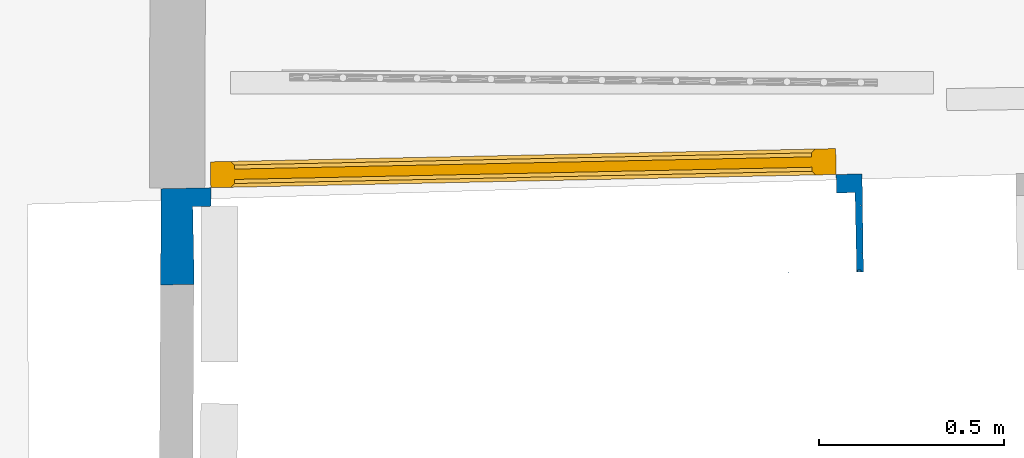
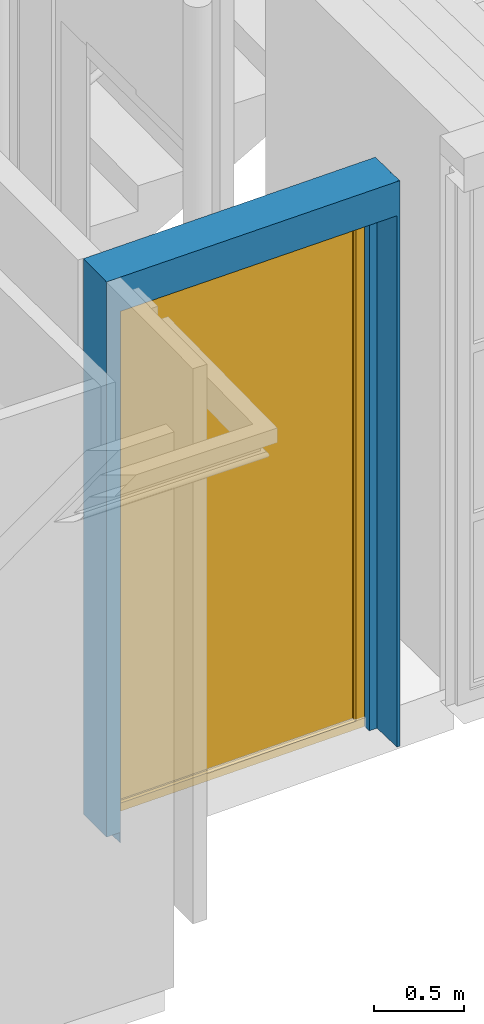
# One storey, part 38 of 66: 1 wall, 1 window, 1 opening.
"""IFC2X3 building model written with IfcOpenShell, lengths in centimetres."""

import ifcopenshell
import ifcopenshell.guid

model = None  # the IFC model being written
_history = None  # IfcOwnerHistory: only IFC2X3 demands one
_inside = {}  # id of a spatial element -> (the spatial element, [elements in it])
_under = {}  # id of a project, library or spatial element -> (it, [spatial elements below it])
_declared = {}  # id of a project -> (the project, [libraries it declares])
_typed = {}  # id of a type object -> (the type object, [elements of that type])
_made_of = {}  # id of a material, layer set ... -> (it, [elements and type objects made of it])


def new_model(schema):
    """Start an empty IFC model of exactly this schema.

    Asked for "IFC4X3", IfcOpenShell would pick the latest addendum, in which some entities
    have other attributes; the version numbers below select the first issue.
    IFC2X3 requires an IfcOwnerHistory on every rooted entity: one is made here for all.
    """
    global model, _history
    if schema == "IFC4X3":
        model = ifcopenshell.file(schema_version=(4, 3, 0, 0))
    else:
        model = ifcopenshell.file(schema=schema)
    _inside.clear()
    _under.clear()
    _declared.clear()
    _typed.clear()
    _made_of.clear()
    _history = None
    if model.schema == "IFC2X3":
        org = make("IfcOrganization", Name="unknown")
        user = make(
            "IfcPersonAndOrganization",
            ThePerson=make("IfcPerson", FamilyName="unknown"),
            TheOrganization=org,
        )
        app = make(
            "IfcApplication",
            ApplicationDeveloper=org,
            Version="unknown",
            ApplicationFullName="unknown",
            ApplicationIdentifier="unknown",
        )
        _history = make(
            "IfcOwnerHistory",
            OwningUser=user,
            OwningApplication=app,
            ChangeAction="ADDED",
            CreationDate=0,
        )
    return model


def make(cls, **values):
    """One entity of the class cls with the attributes given. An attribute that is None is left unset."""
    return model.create_entity(
        cls, **{name: value for name, value in values.items() if value is not None}
    )


def entity(cls, *values):
    """Any entity or typed value of the class cls, its attributes in the order of the schema. None: left unset."""
    e = model.create_entity(cls)
    for i, value in enumerate(values):
        if value is not None:
            e[i] = value
    return e


def rooted(cls, **values):
    """An entity with a GlobalId (a new one), such as an element, a storey or a relation."""
    return make(cls, GlobalId=ifcopenshell.guid.new(), OwnerHistory=_history, **values)


def si_unit(unit_type, name, prefix=None):
    """IfcSIUnit, for example si_unit("LENGTHUNIT", "METRE", prefix="MILLI")."""
    return make("IfcSIUnit", UnitType=unit_type, Prefix=prefix, Name=name)


def converted_unit(unit_type, name, factor, base, dimensions=None, offset=None):
    """IfcConversionBasedUnit, such as the inch: factor (a typed value) times the base unit."""
    return make(
        "IfcConversionBasedUnit"
        if offset is None
        else "IfcConversionBasedUnitWithOffset",
        ConversionOffset=offset,
        Dimensions=None
        if dimensions is None
        else entity("IfcDimensionalExponents", *dimensions),
        UnitType=unit_type,
        Name=name,
        ConversionFactor=make(
            "IfcMeasureWithUnit", ValueComponent=factor, UnitComponent=base
        ),
    )


def assignment(units):
    """IfcUnitAssignment: the units of a project."""
    return None if units is None else make("IfcUnitAssignment", Units=units)


def point(xyz):
    """IfcCartesianPoint."""
    return None if xyz is None else make("IfcCartesianPoint", Coordinates=xyz)


def direction(xyz):
    """IfcDirection."""
    return None if xyz is None else make("IfcDirection", DirectionRatios=xyz)


def frame(location, z_axis=None, x_axis=None):
    """IfcAxis2Placement3D, a coordinate frame: its origin and axes. An axis left out is left unset."""
    return make(
        "IfcAxis2Placement3D",
        Location=point(location),
        Axis=direction(z_axis),
        RefDirection=direction(x_axis),
    )


def origin():
    """The frame at (0, 0, 0) with its axes left unset."""
    return frame((0.0, 0.0, 0.0))


def origin_with_axes():
    """The frame at (0, 0, 0) with the z axis (0, 0, 1) and the x axis (1, 0, 0) written out."""
    return frame((0.0, 0.0, 0.0), z_axis=(0.0, 0.0, 1.0), x_axis=(1.0, 0.0, 0.0))


def place(relative_to, where):
    """IfcLocalPlacement: puts the frame where relative to a parent placement (None: the world)."""
    return make(
        "IfcLocalPlacement", PlacementRelTo=relative_to, RelativePlacement=where
    )


def context(
    kind, dimensions, precision=None, world=None, true_north=None, identifier=None
):
    """IfcGeometricRepresentationContext, for example the 3D "Model" context."""
    return make(
        "IfcGeometricRepresentationContext",
        ContextIdentifier=identifier,
        ContextType=kind,
        CoordinateSpaceDimension=dimensions,
        Precision=precision,
        WorldCoordinateSystem=world,
        TrueNorth=true_north,
    )


def subcontext(parent, identifier, kind, view, scale=None):
    """IfcGeometricRepresentationSubContext, for example "Body" below "Model"."""
    return make(
        "IfcGeometricRepresentationSubContext",
        ContextIdentifier=identifier,
        ContextType=kind,
        ParentContext=parent,
        TargetScale=scale,
        TargetView=view,
    )


def project(units=None, contexts=None):
    """IfcProject with its units and contexts."""
    return rooted(
        "IfcProject",
        Name="project",
        RepresentationContexts=contexts,
        UnitsInContext=assignment(units),
    )


def spatial(cls, under=None, at=None, **own):
    """A site, building, storey or space (cls), placed at a placement, below another one or the project."""
    s = rooted(cls, ObjectPlacement=at, **own)
    if under is not None:
        _under.setdefault(under.id(), (under, []))[1].append(s)
    return s


def faces_of(points, faces, orient=None, outer=None):
    """IfcFace entities. A face is a list of loops; a loop is a list of indices into points, from 0.

    orient and outer hold one flag for each loop. By default every Orientation is true, the
    first loop of a face is its IfcFaceOuterBound and the others are IfcFaceBound.
    """
    made = []
    for i, loops in enumerate(faces):
        bounds = []
        for j, loop in enumerate(loops):
            is_outer = j == 0 if outer is None else outer[i][j]
            bounds.append(
                make(
                    "IfcFaceOuterBound" if is_outer else "IfcFaceBound",
                    Bound=make("IfcPolyLoop", Polygon=[points[k] for k in loop]),
                    Orientation=True if orient is None else orient[i][j],
                )
            )
        made.append(make("IfcFace", Bounds=bounds))
    return made


def faceted_brep(points, faces, orient=None, outer=None, voids=None):
    """IfcFacetedBrep: a solid bounded by flat faces; with voids (closed shells), ...WithVoids."""
    shared = [point(p) for p in points]
    hull = make("IfcClosedShell", CfsFaces=faces_of(shared, faces, orient, outer))
    if voids is None:
        return make("IfcFacetedBrep", Outer=hull)
    return make(
        "IfcFacetedBrepWithVoids",
        Outer=hull,
        Voids=[
            make(cls, CfsFaces=faces_of(shared, fs, o, b)) for cls, fs, o, b in voids
        ],
    )


def shape(context_of_items, identifier, shape_type, items):
    """IfcShapeRepresentation: the items that make up one representation, for example the "Body"."""
    return make(
        "IfcShapeRepresentation",
        ContextOfItems=context_of_items,
        RepresentationIdentifier=identifier,
        RepresentationType=shape_type,
        Items=items,
    )


def source(mapping_origin, context_of_items, identifier, shape_type, items):
    """IfcRepresentationMap: a shape defined once, which mapped items show again and again."""
    return make(
        "IfcRepresentationMap",
        MappingOrigin=mapping_origin,
        MappedRepresentation=shape(context_of_items, identifier, shape_type, items),
    )


def transform(
    local_origin,
    x_axis=None,
    y_axis=None,
    z_axis=None,
    scale=None,
    scale2=None,
    scale3=None,
    uniform=True,
):
    """IfcCartesianTransformationOperator3D, or its non-uniform kind. x_axis, y_axis, z_axis: its Axis1, 2, 3."""
    if uniform:
        return make(
            "IfcCartesianTransformationOperator3D",
            Axis1=direction(x_axis),
            Axis2=direction(y_axis),
            LocalOrigin=point(local_origin),
            Scale=scale,
            Axis3=direction(z_axis),
        )
    return make(
        "IfcCartesianTransformationOperator3DnonUniform",
        Axis1=direction(x_axis),
        Axis2=direction(y_axis),
        LocalOrigin=point(local_origin),
        Scale=scale,
        Axis3=direction(z_axis),
        Scale2=scale2,
        Scale3=scale3,
    )


def mapped(mapping_source, mapping_target):
    """IfcMappedItem: shows the shape of a source again, moved by a transform."""
    return make(
        "IfcMappedItem", MappingSource=mapping_source, MappingTarget=mapping_target
    )


def material(Name=None, Category=None):
    """IfcMaterial."""
    return make("IfcMaterial", Name=Name, Category=Category)


def material_list(materials):
    """IfcMaterialList."""
    return make("IfcMaterialList", Materials=materials)


def layer(
    of_material, thickness, ventilated=None, Name=None, Category=None, Priority=None
):
    """IfcMaterialLayer: one layer of a wall or slab, of a material (None: an air gap)."""
    return make(
        "IfcMaterialLayer",
        Material=of_material,
        LayerThickness=thickness,
        IsVentilated=ventilated,
        Name=Name,
        Category=Category,
        Priority=Priority,
    )


def layer_set(layers, Name=None):
    """IfcMaterialLayerSet."""
    return make("IfcMaterialLayerSet", MaterialLayers=layers, LayerSetName=Name)


def layer_usage(for_layer_set, set_direction, sense, offset, extent=None):
    """IfcMaterialLayerSetUsage: how a layer set lies in its element."""
    return make(
        "IfcMaterialLayerSetUsage",
        ForLayerSet=for_layer_set,
        LayerSetDirection=set_direction,
        DirectionSense=sense,
        OffsetFromReferenceLine=offset,
        ReferenceExtent=extent,
    )


def made_of(thing, what):
    """Note that an element or type object is made of a material, layer set ...; save() writes the relation."""
    if what is not None:
        _made_of.setdefault(what.id(), (what, []))[1].append(thing)
    return thing


def type_object(cls, material=None, **own):
    """A type object (cls), such as IfcWallType, which elements share."""
    return made_of(rooted(cls, **own), material)


def element(
    cls,
    number,
    at=None,
    inside=None,
    cuts=None,
    type_object=None,
    material=None,
    context=None,
    identifier="Body",
    shape_type=None,
    held_by="IfcProductDefinitionShape",
    body=None,
    shapes=None,
    **own,
):
    """One element of the class cls, such as IfcWall. Its Tag is "e" and its number.

    at: its placement. inside: the storey or other place that contains it. cuts: it is an
    opening in that element (IfcRelVoidsElement). A single representation is given by context,
    identifier, shape_type and body (its items); several are given by shapes. held_by: the class
    of the entity that holds the representations. save() writes the other relations.
    """
    e = rooted(cls, Tag="e%d" % number, ObjectPlacement=at, **own)
    if body is not None:
        shapes = [shape(context, identifier, shape_type, body)]
    if shapes is not None:
        e.Representation = make(held_by, Representations=shapes)
    if inside is not None:
        _inside.setdefault(inside.id(), (inside, []))[1].append(e)
    if cuts is not None:
        rooted(
            "IfcRelVoidsElement", RelatingBuildingElement=cuts, RelatedOpeningElement=e
        )
    if type_object is not None:
        _typed.setdefault(type_object.id(), (type_object, []))[1].append(e)
    return made_of(e, material)


def fill(opening, filler):
    """IfcRelFillsElement: the door or window that sits in an opening."""
    return rooted(
        "IfcRelFillsElement",
        RelatingOpeningElement=opening,
        RelatedBuildingElement=filler,
    )


def aggregate(whole, parts):
    """IfcRelAggregates: a whole, such as a stair, and the parts it consists of."""
    return rooted("IfcRelAggregates", RelatingObject=whole, RelatedObjects=parts)


def save(model, path):
    """Write the relations noted so far, then the file.

    IfcRelAggregates (storeys below a building ...), IfcRelContainedInSpatialStructure (elements
    in a storey), IfcRelDefinesByType, IfcRelAssociatesMaterial and IfcRelDeclares: one each for
    every whole, place, type object, material and project.
    """
    for whole, parts in _under.values():
        aggregate(whole, parts)
    for where, things in _inside.values():
        rooted(
            "IfcRelContainedInSpatialStructure",
            RelatedElements=things,
            RelatingStructure=where,
        )
    for kind, things in _typed.values():
        rooted("IfcRelDefinesByType", RelatedObjects=things, RelatingType=kind)
    for what, things in _made_of.values():
        rooted("IfcRelAssociatesMaterial", RelatedObjects=things, RelatingMaterial=what)
    for by, libraries in _declared.values():
        rooted("IfcRelDeclares", RelatingContext=by, RelatedDefinitions=libraries)
    model.write(path)


model = new_model("IFC2X3")

# Units and contexts
model_context = context("Model", 3, precision=0.0001, world=origin(), true_north=direction((0.225632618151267, 0.974212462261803, 0.0)))
body_context = subcontext(model_context, "Body", "Model", "MODEL_VIEW")
footprint_context = subcontext(model_context, "FootPrint", "Model", "MODEL_VIEW")
profile_context = subcontext(model_context, "Profile", "Model", "MODEL_VIEW")
ifc_project = project(units=[si_unit("LENGTHUNIT", "METRE", prefix="CENTI"), si_unit("AREAUNIT", "SQUARE_METRE", prefix="CENTI"), si_unit("VOLUMEUNIT", "CUBIC_METRE", prefix="CENTI"), converted_unit("PLANEANGLEUNIT", "DEGREE", entity("IfcRatioMeasure", 0.0174532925), si_unit("PLANEANGLEUNIT", "RADIAN"), dimensions=[0, 0, 0, 0, 0, 0, 0])], contexts=[model_context])

# Site, building, storey
site_placement = place(None, origin_with_axes())
site = spatial("IfcSite", under=ifc_project, at=site_placement, Name="Default Site", CompositionType="ELEMENT")
building_placement = place(site_placement, origin_with_axes())
building = spatial("IfcBuilding", under=site, at=building_placement, Name="Default Building", CompositionType="ELEMENT")
storey_placement = place(building_placement, frame((0.0, 0.0, 477.795358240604), z_axis=(0.0, 0.0, 1.0), x_axis=(1.0, 0.0, 0.0)))
storey = spatial("IfcBuildingStorey", under=building, at=storey_placement, Name="Niveau 1", CompositionType="ELEMENT", Elevation=477.795358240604)

# Wall, opening, window
ifc_material_1 = material(Name="<aucun>")
ifc_layer = layer(ifc_material_1, 26.0)
ifc_layer_set = layer_set([ifc_layer], Name="default")
ifc_layer_usage = layer_usage(ifc_layer_set, "AXIS2", "POSITIVE", -13.0)
wall_type = type_object("IfcWallType", Name="default 260", PredefinedType="NOTDEFINED", material=ifc_layer_set)
wall_placement = place(storey_placement, frame((893.804594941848, -889.628625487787, -6.99999999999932), z_axis=(0.0, 0.0, 1.0), x_axis=(0.999775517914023, 0.0211875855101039, 0.0)))
wall = element("IfcWall", 1, at=wall_placement, inside=storey, type_object=wall_type, material=ifc_layer_usage, Name="Enveloppe 532672", context=body_context, shape_type="Brep", body=[
    faceted_brep([(1.10152358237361, 13.0000241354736, 7.01283115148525), (-2.73437702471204e-05, 13.0000241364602, 7.01283115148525), (-2.73437702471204e-05, 13.0000241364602, 383.114992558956), (1.10152358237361, 13.0000241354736, 383.114992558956), (-2.73437702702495e-05, 12.9999983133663, 7.01283115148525), (1.10152358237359, 12.9999983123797, 7.01283115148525), (1.10152358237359, 12.9999983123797, -1.29342081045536e-05), (-2.73437702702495e-05, 12.9999983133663, -1.29342081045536e-05), (181.418759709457, 12.9947101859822, -1.29342081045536e-05), (181.129080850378, 13.000020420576, -1.29342081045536e-05), (181.129080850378, 13.000020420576, 383.114992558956), (181.418759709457, 12.9947101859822, 383.114992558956), (181.129080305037, 12.9999906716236, -1.29342081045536e-05), (181.077189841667, 12.9999906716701, -1.29342081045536e-05), (181.077189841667, 12.9999906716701, 383.114992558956), (181.129080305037, 12.9999906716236, 383.114992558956), (151.737392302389, 12.9999802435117, 383.114992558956), (151.737392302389, 12.9999802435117, 360.000025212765), (9.32528194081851, 12.9999803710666, 360.000025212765), (9.32528194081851, 12.9999803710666, 383.114992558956), (21.4035120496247, 12.9999803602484, 383.114992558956), (181.077189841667, 13.0000410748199, -1.29342081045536e-05), (180.886124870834, 13.000041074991, -1.29342081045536e-05), (180.886124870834, 13.000041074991, 383.114992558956), (181.077189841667, 13.0000410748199, 383.114992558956), (3.69667136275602, 12.9999708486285, 7.01283115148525), (1.10152358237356, 12.9999708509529, 7.01283115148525), (1.10152358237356, 12.9999708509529, 383.114992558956), (3.69667136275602, 12.9999708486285, 383.114992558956), (9.32528194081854, 13.0000188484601, 383.114992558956), (9.32528194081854, 13.0000188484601, 360.000025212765), (5.33344927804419, 13.0000188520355, 360.000025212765), (5.33344927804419, 13.0000188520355, -1.29342081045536e-05), (1.1015235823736, 13.0000188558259, -1.29342081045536e-05), (1.1015235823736, 13.0000188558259, 7.01283115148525), (3.69667136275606, 13.0000188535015, 7.01283115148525), (3.69667136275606, 13.0000188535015, 383.114992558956), (6.7491140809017, 13.0000188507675, 383.114992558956), (180.886124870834, 12.9999884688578, 383.114992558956), (180.876872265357, 12.9999884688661, -1.29342081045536e-05), (174.416472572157, 12.9999884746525, -1.29342081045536e-05), (174.416472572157, 12.9999884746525, 360.000025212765), (151.737392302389, 12.9999884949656, 360.000025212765), (151.737392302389, 12.9999884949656, 383.114992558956), (-8.37697730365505, 2.65661287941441, 7.01283115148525), (-8.44623753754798, 0.076953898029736, 7.01283115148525), (-8.44623753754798, 0.076953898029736, 383.114992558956), (-8.37697730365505, 2.65661287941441, 383.114992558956), (-7.90251683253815, 12.9999983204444, 7.01283115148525), (-7.90251683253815, 12.9999983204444, 383.114992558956), (-2.73437702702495e-05, 12.9999983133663, 383.114992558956), (-7.90251683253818, 12.9999677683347, 7.01283115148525), (-8.0993025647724, 12.999967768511, 7.01283115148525), (-8.0993025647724, 12.999967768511, 383.114992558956), (-7.90251683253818, 12.9999677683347, 383.114992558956), (-8.09930256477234, 13.0000363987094, 7.01283115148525), (-8.3770089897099, 2.65661373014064, 7.01283115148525), (-8.3770089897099, 2.65661373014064, 383.114992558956), (-8.09930256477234, 13.0000363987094, 383.114992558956), (180.692628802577, -13.4642167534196, 383.114992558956), (180.592613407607, -13.4664932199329, 383.114992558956), (180.592613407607, -13.4664932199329, 9.00000232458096), (180.692628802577, -13.4642167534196, 9.00000232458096), (180.882675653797, -13.4671950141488, 383.114992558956), (180.692629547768, -13.4641699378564, 383.114992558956), (180.692629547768, -13.4641699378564, 9.00000232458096), (180.882675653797, -13.4671950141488, 9.00000232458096), (180.882675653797, -13.4671950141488, -1.29342081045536e-05), (181.224243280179, -13.4680772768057, -1.29342081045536e-05), (181.224243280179, -13.4680772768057, 383.114992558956), (0.205871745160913, -13.0004962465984, 383.114992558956), (2.00445529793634e-05, -13.0005853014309, 383.114992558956), (2.00445529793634e-05, -13.0005853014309, 7.01283115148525), (0.205871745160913, -13.0004962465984, 7.01283115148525), (2.00445529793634e-05, -13.0005853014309, -1.29342081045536e-05), (0.205871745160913, -13.0004962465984, -1.29342081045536e-05), (0.333495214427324, -13.0008258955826, -1.29342081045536e-05), (0.333495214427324, -13.0008258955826, 360.000025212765), (179.416438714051, -13.4633937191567, 360.000025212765), (179.416438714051, -13.4633937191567, -1.29342081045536e-05), (180.592613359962, -13.4664317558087, -1.29342081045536e-05), (180.592613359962, -13.4664317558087, 9.00000232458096), (180.592613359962, -13.4664317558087, 383.114992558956), (180.592613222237, -13.4664850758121, -1.29342081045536e-05), (180.692576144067, -13.4667432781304, -1.29342081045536e-05), (180.882675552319, -13.4672343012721, -1.29342081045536e-05), (180.882675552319, -13.4672343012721, 9.00000232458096), (180.692576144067, -13.4667432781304, 9.00000232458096), (180.592613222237, -13.4664850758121, 9.00000232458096), (-0.551523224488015, -13.0008521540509, 7.01283115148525), (2.00567726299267e-05, -13.0006135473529, 7.01283115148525), (2.00567726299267e-05, -13.0006135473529, 383.114992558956), (-0.551523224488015, -13.0008521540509, 383.114992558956), (-8.79748672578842, -13.0043826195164, 7.01283115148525), (-0.551523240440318, -13.0008152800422, 7.01283115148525), (-0.551523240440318, -13.0008152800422, 383.114992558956), (-8.79748672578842, -13.0043826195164, 383.114992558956), (0.265201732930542, -10.7905447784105, -1.29342081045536e-05), (-2.05949744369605e-05, -10.7834932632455, -1.29342081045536e-05), (1.10152358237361, 13.0000241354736, -1.29342081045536e-05), (0.950632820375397, 7.99998156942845, -1.29342081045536e-05), (0.333467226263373, 7.99999248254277, -1.29342081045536e-05), (0.333483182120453, -10.593296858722, -1.29342081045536e-05), (0.270546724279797, -10.5923446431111, -1.29342081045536e-05), (-2.05949744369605e-05, -10.7834932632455, 383.114992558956), (0.265201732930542, -10.7905447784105, 383.114992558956), (0.270546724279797, -10.5923446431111, 383.114992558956), (0.389457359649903, -10.5941969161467, 383.114992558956), (-2.05949744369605e-05, -10.7834932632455, 7.01283115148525), (-2.05736721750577e-05, 12.9999983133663, 7.01283115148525), (-2.05736721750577e-05, 12.9999983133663, -1.29342081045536e-05), (180.882614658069, -13.4655721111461, -1.29342081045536e-05), (180.692628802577, -13.4642167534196, -1.29342081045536e-05), (180.599923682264, -12.9999977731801, -1.29342081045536e-05), (180.876838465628, -12.9999521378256, -1.29342081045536e-05), (180.876838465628, -12.9999521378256, 383.114992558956), (180.599923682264, -12.9999977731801, 383.114992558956), (180.592613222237, -13.4664850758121, 383.114992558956), (180.882614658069, -13.4655721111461, 383.114992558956), (181.224243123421, -13.4681379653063, -1.29342081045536e-05), (180.886090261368, 4.257220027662, -1.29342081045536e-05), (180.876878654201, 4.97483474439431, -1.29342081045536e-05), (181.00645811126, 12.5341347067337, -1.29342081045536e-05), (181.07377846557, 12.5329941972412, -1.29342081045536e-05), (181.07377846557, 12.5329941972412, 383.114992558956), (181.00645811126, 12.5341347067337, 383.114992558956), (180.876878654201, 4.97483474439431, 383.114992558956), (180.886090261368, 4.257220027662, 383.114992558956), (181.224243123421, -13.4681379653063, 383.114992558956), (181.418742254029, 12.9947103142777, -1.29342081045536e-05), (181.418742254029, 12.9947103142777, 383.114992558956), (179.416401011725, 4.25564781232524, -1.29342081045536e-05), (179.416389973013, 8.00004175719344, -1.29342081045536e-05), (174.416392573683, 8.00002640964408, -1.29342081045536e-05), (174.416452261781, 12.6389754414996, -1.29342081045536e-05), (180.88611728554, 12.5360172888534, -1.29342081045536e-05), (180.876837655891, 4.25722533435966, -1.29342081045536e-05), (180.88611728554, 12.5360172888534, 383.114992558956), (175.047332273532, 12.6289442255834, 383.114992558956), (174.967711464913, 7.62958522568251, 383.114992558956), (179.967167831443, 7.55005774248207, 383.114992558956), (179.914723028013, 4.25615230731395, 383.114992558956), (180.876837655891, 4.25722533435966, 383.114992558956), (180.886124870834, 12.9999884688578, -1.29342081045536e-05), (5.33344927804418, 13.0000052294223, -1.29342081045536e-05), (5.33346462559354, 8.00000783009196, -1.29342081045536e-05), (6.70618157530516, 10.3079434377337, 383.114992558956), (6.74911408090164, 12.9999560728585, 383.114992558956), (1.37267931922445, -10.6098826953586, 383.114992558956), (1.70682055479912, 10.3874689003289, 383.114992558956), (2.00582848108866e-05, -13.0006170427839, -1.29342081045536e-05), (2.00582848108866e-05, -13.0006170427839, 383.114992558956), (2.00582848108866e-05, -13.0006170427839, 7.01283115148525), (2.00602706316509e-05, -10.7834932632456, 7.01283115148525), (2.00602706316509e-05, -10.7834932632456, -1.29342081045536e-05), (0.333501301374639, -13.0005301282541, -1.29342081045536e-05), (151.530460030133, -12.9999688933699, 383.114992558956), (21.0227354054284, -10.9226257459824, 383.114992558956), (179.416438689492, -13.4634032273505, -1.29342081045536e-05), (179.41639272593, -13.4475677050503, -1.29342081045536e-05), (179.63285042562, -13.4511056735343, 383.114992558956), (179.416434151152, -13.0000041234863, -1.29342081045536e-05), (179.64002626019, -12.9999731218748, 383.114992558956), (179.632931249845, -13.4472918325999, 383.114992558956), (180.692576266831, -13.466695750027, -1.29342081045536e-05), (174.416472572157, 13.0000217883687, -1.29342081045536e-05), (-0.50472182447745, -10.7699357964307, 7.01283115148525), (-0.50472182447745, -10.7699357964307, 383.114992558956), (-8.44624081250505, 0.0769539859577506, 7.01283115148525), (-8.29263836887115, 0.0736987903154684, 7.01283115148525), (-8.61340593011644, -10.5522117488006, 7.01283115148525), (-8.61340593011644, -10.5522117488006, 383.114992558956), (-8.29263836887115, 0.0736987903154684, 383.114992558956), (-8.44624081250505, 0.0769539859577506, 383.114992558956), (-8.21481998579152, 2.65193633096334, 7.01283115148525), (-8.21481998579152, 2.65193633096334, 383.114992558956), (-0.280675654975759, -0.094376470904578, 7.01283115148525), (-0.280675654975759, -0.094376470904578, 383.114992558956), (5.33346462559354, 8.00000783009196, 360.000025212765), (5.33346463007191, 13.0000052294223, -1.29342081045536e-05), (5.33346463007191, 13.0000052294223, 360.000025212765), (0.333467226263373, 7.99999248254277, 360.000025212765), (5.33346462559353, 7.9999924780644, -1.29342081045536e-05), (5.33346462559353, 7.9999924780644, 360.000025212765), (0.333513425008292, -12.9999580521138, 360.000025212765), (0.333513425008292, -12.9999580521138, -1.29342081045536e-05), (0.333513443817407, 7.99999248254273, -1.29342081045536e-05), (0.333513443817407, 7.99999248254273, 360.000025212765), (174.416392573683, 8.00002640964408, 360.000025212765), (174.416392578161, 13.0000217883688, 360.000025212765), (174.416392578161, 13.0000217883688, -1.29342081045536e-05), (179.416389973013, 8.00004175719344, 360.000025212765), (174.416392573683, 8.00004176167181, 360.000025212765), (174.416392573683, 8.00004176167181, -1.29342081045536e-05), (179.416438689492, -13.4634032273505, 360.000025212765), (179.416438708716, 8.0000417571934, 360.000025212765), (179.416438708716, 8.0000417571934, -1.29342081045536e-05), (179.416438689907, -13.0000041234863, -1.29342081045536e-05), (179.416438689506, -13.4475677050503, -1.29342081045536e-05), (5.33344927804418, 13.0000052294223, 360.000025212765), (174.416472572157, 13.0000217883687, 360.000025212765), (0.333495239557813, -13.0008161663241, 360.000025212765), (9.3346713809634, 4.07628882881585, 383.114992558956), (21.4035120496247, 12.9999811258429, 383.114992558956), (-8.79745641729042, -13.0043834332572, 7.01283115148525), (-8.79745641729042, -13.0043834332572, 383.114992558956)], [[[0, 1, 2, 3]], [[4, 5, 6, 7]], [[8, 9, 10, 11]], [[12, 13, 14, 15]], [[16, 17, 18, 19, 20]], [[21, 22, 23, 24]], [[25, 26, 27, 28]], [[29, 30, 31, 32, 33, 34, 35, 36, 37]], [[38, 39, 40, 41, 42, 43]], [[44, 45, 46, 47]], [[4, 48, 49, 50]], [[51, 52, 53, 54]], [[55, 56, 57, 58]], [[59, 60, 61, 62]], [[63, 64, 65, 66]], [[67, 68, 69, 63, 66]], [[70, 71, 72, 73]], [[73, 72, 74, 75]], [[70, 73, 75, 76, 77, 78, 79, 80, 81, 82]], [[83, 84, 85, 86, 87, 88]], [[89, 90, 91, 92]], [[93, 94, 95, 96]], [[97, 98, 7, 99, 100, 101, 102, 103]], [[104, 105, 106, 107, 3, 50]], [[108, 109, 110, 98]], [[111, 112, 83, 113, 114]], [[115, 116, 117, 59, 118]], [[119, 67, 114, 120, 121, 122, 123, 21, 12, 8]], [[11, 15, 24, 124, 125, 126, 127, 115, 63, 128]], [[119, 129, 130, 128]], [[131, 132, 133, 134, 135, 121, 136]], [[126, 137, 138, 139, 140, 141, 142]], [[135, 143, 21, 123, 122]], [[125, 124, 24, 38, 137]], [[135, 122, 121]], [[126, 125, 137]], [[114, 113, 136]], [[142, 116, 115]], [[100, 99, 144, 145]], [[146, 147, 3, 107, 148, 149]], [[75, 150, 98, 97]], [[105, 104, 151, 70]], [[152, 153, 154, 150]], [[155, 75, 103, 102]], [[156, 157, 148, 107, 106, 105, 70]], [[83, 158, 159]], [[156, 70, 117, 160]], [[83, 159, 161, 113]], [[116, 162, 163, 156, 117]], [[164, 83, 112, 67]], [[135, 134, 165, 143]], [[38, 16, 138, 137]], [[152, 89, 166, 108]], [[104, 167, 92, 151]], [[93, 168, 169, 170, 166, 89]], [[92, 167, 171, 172, 173, 96]], [[168, 44, 174, 169]], [[172, 175, 47, 173]], [[176, 169, 174, 51, 4, 108, 166]], [[167, 104, 50, 54, 175, 172, 177]], [[55, 51, 174, 44]], [[47, 175, 54, 58]], [[176, 166, 170, 169]], [[172, 171, 167, 177]], [[178, 145, 179, 180]], [[181, 101, 182, 183]], [[184, 185, 186, 187]], [[133, 188, 189, 190]], [[132, 191, 192, 193]], [[158, 194, 195, 196, 197, 198]], [[199, 30, 17, 200, 188, 191, 194, 201, 181, 178]], [[113, 161, 131, 136]], [[142, 141, 162, 116]], [[156, 163, 162]], [[29, 147, 146, 149, 148, 157, 156, 162, 141, 202]], [[29, 202, 141, 140, 139, 138, 16, 203]], [[168, 204, 205, 173]]]),
])
opening_placement = place(wall_placement, frame((0.333475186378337, 0.0, -7.1098682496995e-13), z_axis=(0.0, 0.0, 1.0), x_axis=(-1.0, -1.36696209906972e-15, 0.0)))
cartesian_point_1 = entity("IfcCartesianPoint", [0.0, 0.0, 360.0])
cartesian_point_2 = entity("IfcCartesianPoint", [-179.082952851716, -13.0000000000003])
opening = element("IfcOpeningElement", 2, at=opening_placement, cuts=wall, Name="4294966534_11", ObjectType="Opening", shapes=[
    shape(body_context, "Body", "Brep", [faceted_brep([(-5.00000804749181, -32.9999928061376, 360.000025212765), (-174.082935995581, -32.9999926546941, 360.000025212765), (-174.082935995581, -32.9999926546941, -1.29342074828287e-05), (-5.00000804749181, -32.9999928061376, -1.29342074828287e-05), (0.0516183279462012, 33.0007594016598, -1.29342074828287e-05), (-179.031325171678, 33.4633272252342, -1.29342074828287e-05), (-179.031325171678, 33.4633272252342, 360.000025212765), (0.0516183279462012, 33.0007594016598, 360.000025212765), (-5.00000802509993, -8.00000783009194, -1.29342074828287e-05), (-5.00000802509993, -8.00000783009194, 360.000025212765), (-4.99998943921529, -8.00000783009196, 360.000025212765), (-4.99998943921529, -8.00000783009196, -1.29342074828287e-05), (7.96011486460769e-06, -8.00000783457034, -1.29342074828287e-05), (7.96011486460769e-06, -8.00000783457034, 360.000025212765), (7.96011487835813e-06, -7.99999248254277, 360.000025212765), (7.96011487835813e-06, -7.99999248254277, -1.29342074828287e-05), (7.99683748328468e-06, 32.9998992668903, -1.29342074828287e-05), (7.99683748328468e-06, 32.9998992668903, 360.000025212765), (-174.082935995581, -33.0000113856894, -1.29342074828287e-05), (-174.082917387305, -8.00002640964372, -1.29342074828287e-05), (-179.082914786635, -8.00004175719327, -1.29342074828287e-05), (-179.031325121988, 33.4633464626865, -1.29342074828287e-05), (-174.082935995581, -33.0000113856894, 360.000025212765), (-174.082935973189, -8.00002640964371, 360.000025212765), (-174.082935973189, -8.00002640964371, -1.29342074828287e-05), (-174.082917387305, -8.00002640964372, 360.000025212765), (-179.082914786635, -8.00002640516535, 360.000025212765), (-179.082914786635, -8.00002640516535, -1.29342074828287e-05), (-179.082914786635, -8.00004175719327, 360.000025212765), (-179.082914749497, 33.4633464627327, 360.000025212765), (-179.082914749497, 33.4633464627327, -1.29342074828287e-05), (-179.031325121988, 33.4633464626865, 360.000025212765)], [[[0, 1, 2, 3]], [[4, 5, 6, 7]], [[0, 3, 8, 9]], [[10, 11, 12, 13]], [[14, 15, 16, 17]], [[3, 18, 19, 20, 21, 4, 15, 11]], [[18, 22, 23, 24]], [[19, 25, 26, 27]], [[20, 28, 29, 30]], [[10, 14, 7, 31, 28, 25, 22, 0]]])]),
    shape(profile_context, "Profile", "GeometricCurveSet", [entity("IfcGeometricCurveSet", [entity("IfcPolyline", [cartesian_point_1, entity("IfcCartesianPoint", [0.0, 0.0, 0.0]), entity("IfcCartesianPoint", [-179.082952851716, -1.77635683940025e-13, 0.0]), entity("IfcCartesianPoint", [-179.082952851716, -1.77635683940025e-13, 360.0]), cartesian_point_1])])]),
    shape(footprint_context, "FootPrint", "GeometricCurveSet", [entity("IfcGeometricCurveSet", [entity("IfcPolyline", [cartesian_point_2, entity("IfcCartesianPoint", [-1.77635683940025e-13, -13.0000000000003]), entity("IfcCartesianPoint", [3.5527136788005e-13, 13.0008613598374]), entity("IfcCartesianPoint", [-179.082952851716, 13.4634290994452]), cartesian_point_2])])]),
])
ifc_material_2 = material(Name="Transparent")
ifc_material_3 = material(Name="Sapin blanc")
ifc_material_list = material_list([ifc_material_2, ifc_material_3])
window_style = type_object("IfcWindowStyle", Name="F[R] VV", ConstructionType="NOTDEFINED", OperationType="SINGLE_PANEL", ParameterTakesPrecedence=True, Sizeable=False, material=ifc_material_list)
shared_shape = source(origin_with_axes(), body_context, "Body", "Brep", [
    faceted_brep([(-79.0414750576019, 354.500007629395, -7.00000002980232), (-78.0414754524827, 353.500008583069, -6.00000042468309), (-78.0414754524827, 6.49999976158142, -6.00000042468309), (-79.0414750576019, 5.49999997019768, -7.00000002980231), (-78.0414760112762, 353.500008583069, -5.99999986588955), (-78.0414760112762, 353.500008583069, -0.999999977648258), (-78.0414760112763, 6.49999976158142, -0.999999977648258), (-78.0414760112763, 6.49999976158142, -5.99999986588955), (-79.0414755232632, 354.500007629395, -4.65661287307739e-07), (-79.0414755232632, 5.49999997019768, -4.65661303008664e-07), (-78.0414760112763, 6.49999976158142, -0.999999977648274), (-79.0414750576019, 354.500007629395, 0.0), (-84.5414757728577, 359.999990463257, 0.0), (-84.5414757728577, 0.0, 0.0), (-79.0414750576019, 5.49999997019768, 0.0), (-84.5414757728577, 359.999990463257, -7.00000002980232), (-84.5414757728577, 1.36955024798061e-30, -7.00000002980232), (-84.5414757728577, 1.36955024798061e-30, 0.0), (-79.0414750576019, 5.49999997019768, -7.00000002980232), (-84.5414757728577, 0.0, -7.00000002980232), (-78.0414760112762, 6.49999994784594, -6.00000005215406), (78.0414760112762, 6.49999994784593, -6.00000005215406), (79.0414750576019, 5.49999997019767, -7.00000002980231), (-78.0414760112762, 6.49999976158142, -5.99999986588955), (-78.0414760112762, 6.49999976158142, -0.999999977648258), (78.0414760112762, 6.4999997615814, -0.999999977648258), (78.0414760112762, 6.4999997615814, -5.99999986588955), (-79.0414750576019, 5.49999987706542, -9.31322574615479e-08), (79.0414750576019, 5.49999987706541, -9.31322692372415e-08), (78.0414760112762, 6.49999976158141, -0.99999997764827), (84.5414757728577, 0.0, 0.0), (79.0414750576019, 5.49999997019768, 0.0), (84.5414757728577, 0.0, -7.00000002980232), (79.0414750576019, 5.49999997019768, -7.00000002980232), (78.0414754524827, 6.49999976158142, -6.00000042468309), (78.0414754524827, 353.500008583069, -6.00000042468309), (79.0414750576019, 354.500007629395, -7.00000002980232), (78.0414760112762, 6.49999976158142, -5.99999986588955), (78.0414760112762, 6.49999976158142, -0.999999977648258), (78.0414760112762, 353.500008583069, -0.999999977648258), (78.0414760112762, 353.500008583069, -5.99999986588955), (79.0414755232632, 5.49999997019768, -4.65661287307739e-07), (79.0414755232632, 354.500007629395, -4.65661279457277e-07), (78.0414760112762, 353.500008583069, -0.99999997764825), (84.5414757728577, 359.999990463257, 0.0), (79.0414750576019, 354.500007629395, 0.0), (84.5414757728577, 359.999990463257, -7.00000002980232), (78.0414760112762, 353.500008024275, -6.00000042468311), (-78.0414760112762, 353.500008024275, -6.00000042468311), (79.0414750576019, 354.500008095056, -4.65661295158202e-07), (-79.0414750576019, 354.500008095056, -4.65661295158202e-07)], [[[0, 1, 2, 3]], [[4, 5, 6, 7]], [[5, 8, 9, 10]], [[11, 12, 13, 14]], [[12, 15, 16, 17]], [[15, 0, 18, 19]], [[18, 20, 21, 22]], [[23, 24, 25, 26]], [[24, 27, 28, 29]], [[14, 13, 30, 31]], [[13, 19, 32, 30]], [[19, 18, 33, 32]], [[33, 34, 35, 36]], [[37, 38, 39, 40]], [[38, 41, 42, 43]], [[31, 30, 44, 45]], [[30, 32, 46, 44]], [[32, 33, 36, 46]], [[36, 47, 48, 0]], [[40, 39, 5, 4]], [[39, 49, 50, 5]], [[45, 44, 12, 11]], [[44, 46, 15, 12]], [[46, 36, 0, 15]]]),
    faceted_brep([(78.0414760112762, 353.500008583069, -4.89999987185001), (78.0414760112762, 6.49999976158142, -4.89999987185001), (-78.0414760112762, 6.49999976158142, -4.89999987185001), (-78.0414760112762, 353.500008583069, -4.89999987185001), (-78.0414760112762, 353.500008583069, -2.09999997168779), (-78.0414760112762, 6.49999976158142, -2.09999997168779), (78.0414760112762, 6.49999976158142, -2.09999997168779), (78.0414760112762, 353.500008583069, -2.09999997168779), (-78.0414760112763, 6.49999976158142, -4.89999987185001), (-78.0414760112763, 6.49999976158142, -2.09999997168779), (78.0414760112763, 353.500008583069, -4.89999987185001), (78.0414760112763, 353.500008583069, -2.09999997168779)], [[[0, 1, 2, 3]], [[4, 5, 6, 7]], [[3, 8, 9, 4]], [[2, 1, 6, 5]], [[1, 10, 11, 6]], [[0, 3, 4, 7]]]),
])
window_placement = place(opening_placement, frame((-174.082952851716, -13.0000000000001, 0.0), z_axis=(0.0, 0.0, 1.0), x_axis=(1.0, 0.0, 0.0)))
window = element("IfcWindow", 3, at=window_placement, inside=storey, type_object=window_style, material=ifc_material_list, Name="Fenêtre 533290", OverallHeight=360.0, OverallWidth=169.082952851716, context=body_context, shape_type="MappedRepresentation", body=[
    mapped(shared_shape, transform((84.5414764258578, 0.0, 0.0), x_axis=(-1.0, 0.0, 0.0), y_axis=(0.0, 0.0, 1.0), z_axis=(0.0, 1.0, 0.0), scale=1.0, scale2=1.0, scale3=1.0, uniform=False)),
])
fill(opening, window)

save(model, "model.ifc")
